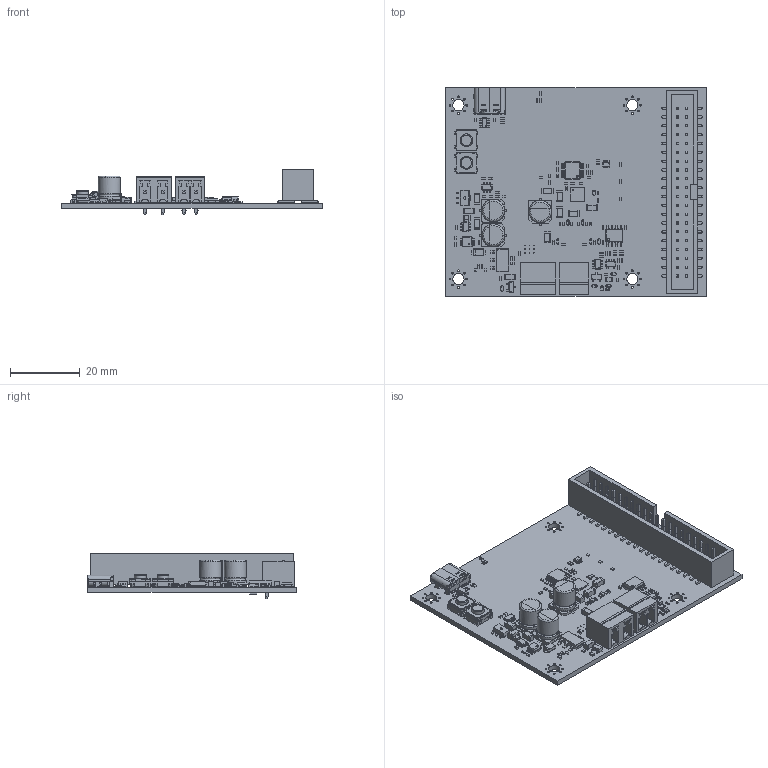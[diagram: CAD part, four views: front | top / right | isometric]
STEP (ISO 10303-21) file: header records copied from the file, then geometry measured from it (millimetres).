
FILE_DESCRIPTION(('KiCad electronic assembly'),'2;1');
FILE_NAME('s3main.step','2025-12-18T15:18:30',('Pcbnew'),('Kicad'), 'Open CASCADE STEP processor 7.9','KiCad to STEP converter','Unknown' );
FILE_SCHEMA(('AUTOMOTIVE_DESIGN { 1 0 10303 214 1 1 1 1 }'));
Length unit declared in the file: millimetre
Products named in the file (27): s3main 1; R_0402_1005Metric; D_SOD-523; C_1206_3216Metric; UQFN-28-1EP_4x4mm_P0.4mm_EP2.35x2.35mm; SOT-23-5; D_PowerDI-123; C_0402_1005Metric; SSOP-8_2.95x2.8mm_P0.65mm; R_0805_2012Metric; CP_Elec_6.3x7.7; USB_C_Receptacle_GCT_USB4105-xx-A_16P_TopMnt_Horizontal; SW_SPST_EVPBF; TSOT-23-6; SOT-23; L_0805_2012Metric; SOT-223; TSSOP-14_4.4x5mm_P0.65mm; IDC-Header_2x20_P2.54mm_Vertical_SMD; PhoenixContact_MC_1,5_2-G-3.5_1x02_P3.50mm_Horizontal; PhoenixContact_MC_1,5_2-G-5.08_1x02_P5.08mm_Horizontal; SOT-89-3; s3main 1.85.1; SOT-23-6; SOT-363_SC-70-6; SOIC-8_3.9x4.9mm_P1.27mm; s3main_PCB
Assembly tree (123 placements, depth 3):
  s3main 1
    R_0402_1005Metric  x49
    D_SOD-523  x11
    C_1206_3216Metric  x10
    UQFN-28-1EP_4x4mm_P0.4mm_EP2.35x2.35mm
    SOT-23-5
    D_PowerDI-123
    C_0402_1005Metric  x23
    SSOP-8_2.95x2.8mm_P0.65mm
    R_0805_2012Metric  x3
    CP_Elec_6.3x7.7  x3
    USB_C_Receptacle_GCT_USB4105-xx-A_16P_TopMnt_Horizontal
    SW_SPST_EVPBF  x2
    TSOT-23-6  x3
    SOT-23  x2
    L_0805_2012Metric
    SOT-223
    TSSOP-14_4.4x5mm_P0.65mm
    IDC-Header_2x20_P2.54mm_Vertical_SMD
    PhoenixContact_MC_1,5_2-G-3.5_1x02_P3.50mm_Horizontal
    PhoenixContact_MC_1,5_2-G-5.08_1x02_P5.08mm_Horizontal
    SOT-89-3
      s3main 1.85.1
    SOT-23-6
    SOT-363_SC-70-6
    SOIC-8_3.9x4.9mm_P1.27mm
    s3main_PCB
Bounding box: 75 x 60.08 x 13.04 mm (x, y, z)
Volume: 11565.1 mm3; surface area: 17725 mm2
Topology: 161 solids, 161 shells, 6356 faces, 16383 edges, 10473 vertices
Faces by surface type: plane 4525, cylinder 1488, bspline 310, torus 22, cone 8, revolution 3
Full cylindrical faces by diameter (mm): 0.2 x18, 0.5 x35, 0.65 x2, 0.7 x1, 1.2 x4, 3.2 x4, 3.4 x2, 3.7 x2, 6.3 x6
Entity records: 128000 total; most frequent: CARTESIAN_POINT 18756, ORIENTED_EDGE 17430, DIRECTION 16430, EDGE_CURVE 8716, LINE 7211, VECTOR 7211, VERTEX_POINT 5513, AXIS2_PLACEMENT_3D 4609
